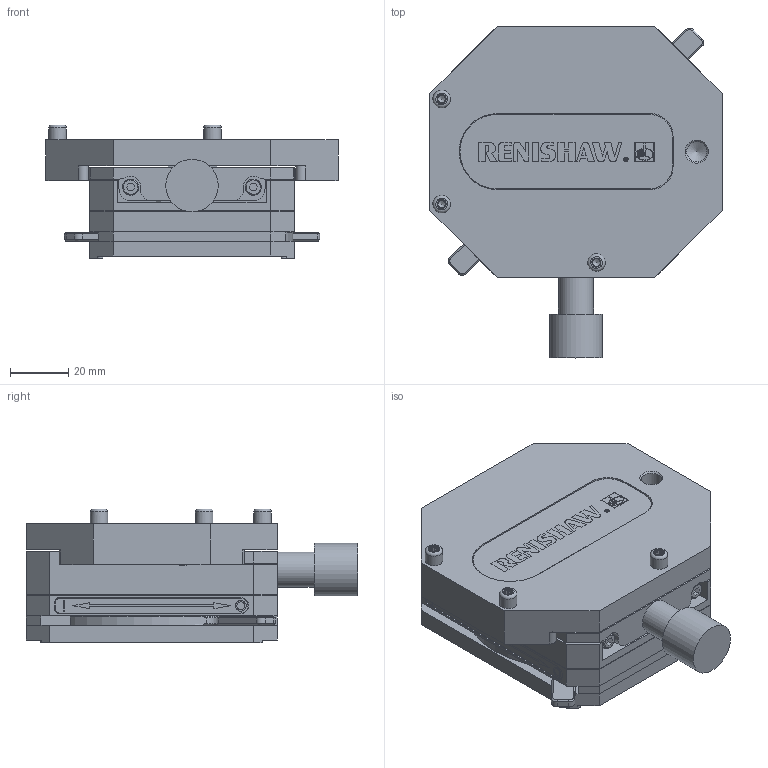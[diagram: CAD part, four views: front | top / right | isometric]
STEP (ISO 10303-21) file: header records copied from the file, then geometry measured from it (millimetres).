
FILE_DESCRIPTION(/* description */ (''),/* implementation_level */ '2;1');
FILE_NAME(/* name */ 'LA-5103-4760-A XM LINEAR STAGE.stp',/* time_stamp */ '2020-04-01T13:38:30+01:00',/* author */ (''),/* organization */ (''),/* preprocessor_version */ 'ST-DEVELOPER v16.7',/* originating_system */ 'SIEMENS PLM Software NX 12.0',/* authorisation */ '');
FILE_SCHEMA (('AUTOMOTIVE_DESIGN { 1 0 10303 214 3 1 1 1 }'));
Length unit declared in the file: millimetre
Products named in the file (1): jm141DA0466D3vwf
Bounding box: 100 x 113.63 x 45.85 mm (x, y, z)
Volume: 220475 mm3; surface area: 70498.8 mm2
Topology: 1 solids, 6 shells, 535 faces, 1528 edges, 1052 vertices
Faces by surface type: plane 356, cylinder 137, cone 39, torus 3
Full cylindrical faces by diameter (mm): 2.6 x5, 3.7 x2, 5.5 x2, 5.585 x1, 6 x3, 6.9 x1, 9.636 x1, 12 x1, 18 x1
Entity records: 20978 total; most frequent: CARTESIAN_POINT 3638, ORIENTED_EDGE 2932, DIRECTION 2810, EDGE_CURVE 1466, VERTEX_POINT 1032, LINE 1020, VECTOR 1020, AXIS2_PLACEMENT_3D 895
